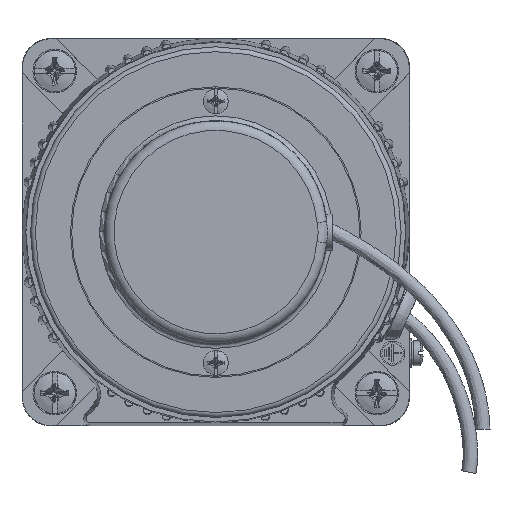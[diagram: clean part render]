
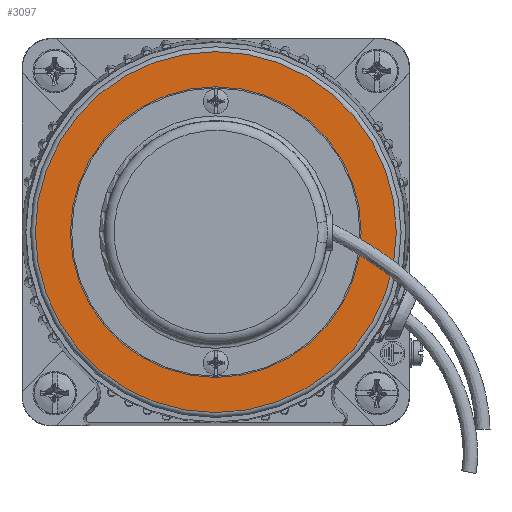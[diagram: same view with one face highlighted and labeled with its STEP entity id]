
A CAD part, left-side view. The second image highlights one B-rep face of the part: STEP entity #3097.
In plain terms, the highlighted planar face has unit normal (-1, 0, 0).
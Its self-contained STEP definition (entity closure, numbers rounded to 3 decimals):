
#3097=ADVANCED_FACE('',(#4744,#4745),#3586,.F.);
#3586=PLANE('',#14540);
#4744=FACE_BOUND('',#5525,.T.);
#4745=FACE_BOUND('',#5526,.T.);
#5525=EDGE_LOOP('',(#8485));
#5526=EDGE_LOOP('',(#8486));
#8485=ORIENTED_EDGE('',*,*,#12578,.T.);
#8486=ORIENTED_EDGE('',*,*,#12437,.F.);
#10730=VERTEX_POINT('',#23047);
#10811=VERTEX_POINT('',#23678);
#12437=EDGE_CURVE('',#10730,#10730,#13698,.T.);
#12578=EDGE_CURVE('',#10811,#10811,#13731,.T.);
#13698=CIRCLE('',#14457,30.);
#13731=CIRCLE('',#14539,37.25);
#14457=AXIS2_PLACEMENT_3D('',#23046,#16259,#16260);
#14539=AXIS2_PLACEMENT_3D('',#23677,#16478,#16479);
#14540=AXIS2_PLACEMENT_3D('',#23679,#16480,#16481);
#16259=DIRECTION('',(-1.,0.,0.));
#16260=DIRECTION('',(0.,0.,1.));
#16478=DIRECTION('',(-1.,0.,0.));
#16479=DIRECTION('',(0.,0.,-1.));
#16480=DIRECTION('',(1.,0.,0.));
#16481=DIRECTION('',(0.,0.,-1.));
#23046=CARTESIAN_POINT('',(-86.,40.,40.));
#23047=CARTESIAN_POINT('',(-86.,40.,70.));
#23677=CARTESIAN_POINT('',(-86.,40.,40.));
#23678=CARTESIAN_POINT('',(-86.,40.,2.75));
#23679=CARTESIAN_POINT('',(-86.,40.,78.25));
